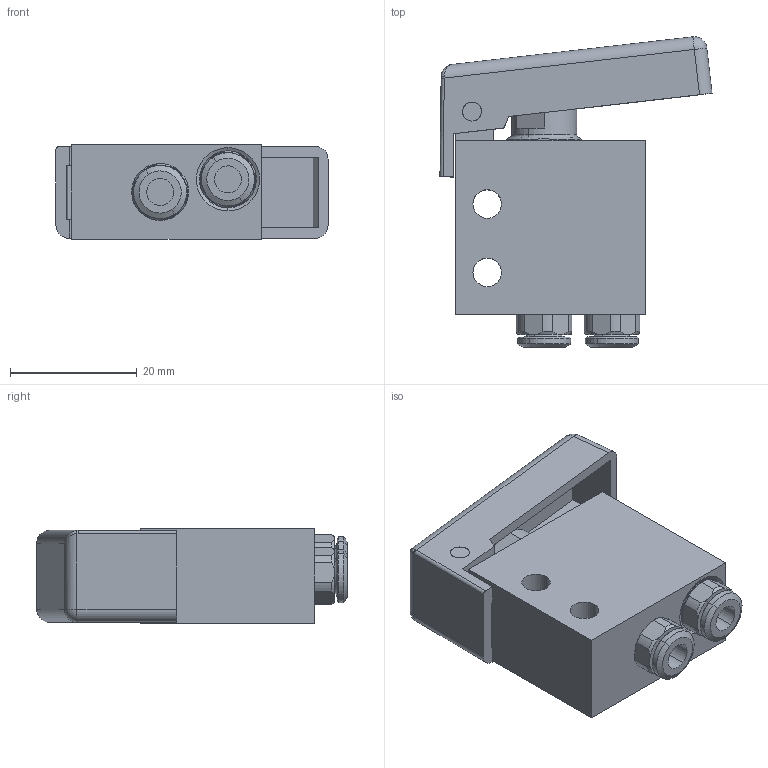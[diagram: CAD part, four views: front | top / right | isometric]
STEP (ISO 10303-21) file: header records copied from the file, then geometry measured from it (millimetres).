
FILE_DESCRIPTION (( 'STEP AP214' ), '1' );
FILE_NAME ('08_244_4.STEP', '2016-08-02T12:28:40', ( '' ), ( '' ), 'SwSTEP 2.0', 'SolidWorks 2016', '' );
FILE_SCHEMA (( 'AUTOMOTIVE_DESIGN' ));
Length unit declared in the file: millimetre
Products named in the file (1): 08_244_4
Bounding box: 42.98 x 49.01 x 15 mm (x, y, z)
Volume: 16025.1 mm3; surface area: 9295.6 mm2
Topology: 6 solids, 6 shells, 257 faces, 631 edges, 391 vertices
Faces by surface type: plane 89, cylinder 77, cone 50, torus 24, bspline 10, sphere 7
Entity records: 8485 total; most frequent: CARTESIAN_POINT 2044, DIRECTION 1343, ORIENTED_EDGE 1244, EDGE_CURVE 622, AXIS2_PLACEMENT_3D 532, VERTEX_POINT 388, CIRCLE 284, EDGE_LOOP 280
